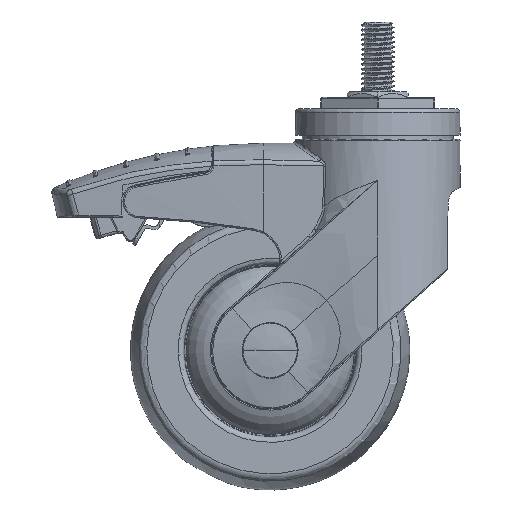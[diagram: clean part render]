
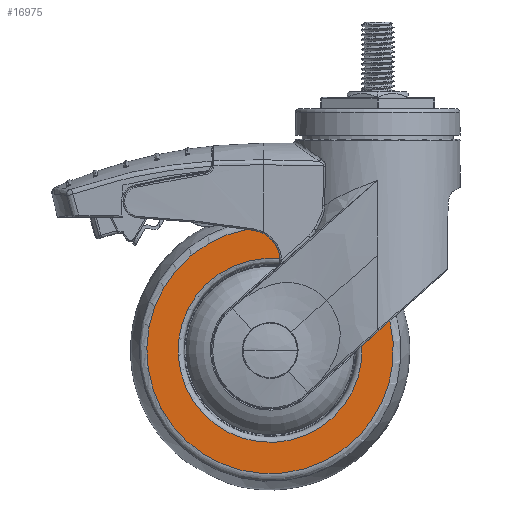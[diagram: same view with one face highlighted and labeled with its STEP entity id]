
A CAD part, left-side view. The second image highlights one B-rep face of the part: STEP entity #16975.
In plain terms, the highlighted planar face has unit normal (-1, 0, 0).
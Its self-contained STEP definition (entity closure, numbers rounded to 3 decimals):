
#430=CARTESIAN_POINT('',(-16.,-4.315,-29.689));
#450=CARTESIAN_POINT('',(-16.,5.654,-38.525));
#743=CARTESIAN_POINT('',(-16.,103.776,-352.359));
#744=DIRECTION('',(1.,0.,0.));
#745=DIRECTION('',(0.,-0.158,0.987));
#746=AXIS2_PLACEMENT_3D('',#743,#744,#745);
#3401=CARTESIAN_POINT('',(-16.,35.019,-7.537));
#3407=DIRECTION('',(0.,0.748,-0.663));
#3408=VECTOR('',#3407,13.321);
#3409=CARTESIAN_POINT('',(-16.,-4.315,-29.689));
#3410=LINE('',#3409,#3408);
#3411=CARTESIAN_POINT('',(-16.,46.,-8.175));
#3412=DIRECTION('',(-1.,0.,0.));
#3413=DIRECTION('',(0.,-0.998,0.058));
#3414=AXIS2_PLACEMENT_3D('',#3411,#3412,#3413);
#3416=CARTESIAN_POINT('',(-16.,38.539,-40.279));
#3417=DIRECTION('',(1.,0.,0.));
#3418=DIRECTION('',(0.,-0.971,0.24));
#3419=AXIS2_PLACEMENT_3D('',#3416,#3417,#3418);
#3426=CARTESIAN_POINT('',(-16.,38.539,-40.279));
#3427=DIRECTION('',(-1.,0.,0.));
#3428=DIRECTION('',(0.,-0.107,0.994));
#3429=AXIS2_PLACEMENT_3D('',#3426,#3427,#3428);
#11369=VERTEX_POINT('',#3401);
#11376=VERTEX_POINT('',#450);
#11379=CARTESIAN_POINT('',(-16.,46.743,3.094));
#11380=CARTESIAN_POINT('',(-16.,44.179,2.673));
#11381=VERTEX_POINT('',#11379);
#11382=VERTEX_POINT('',#11380);
#11384=VERTEX_POINT('',#430);
#16961=CARTESIAN_POINT('',(-16.,38.539,-40.279));
#16962=DIRECTION('',(-1.,0.,0.));
#16963=DIRECTION('',(0.,-0.748,0.663));
#16964=AXIS2_PLACEMENT_3D('',#16961,#16962,#16963);
#16965=PLANE('',#16964);
#16966=ORIENTED_EDGE('',*,*,#12488,.F.);
#16968=ORIENTED_EDGE('',*,*,#16967,.T.);
#16969=ORIENTED_EDGE('',*,*,#12634,.T.);
#16970=ORIENTED_EDGE('',*,*,#16940,.F.);
#16972=ORIENTED_EDGE('',*,*,#16971,.T.);
#16973=EDGE_LOOP('',(#16966,#16968,#16969,#16970,#16972));
#16974=FACE_OUTER_BOUND('',#16973,.F.);
#16975=ADVANCED_FACE('',(#16974),#16965,.T.);
#747=CIRCLE('',#746,360.);
#3415=CIRCLE('',#3414,11.);
#3420=CIRCLE('',#3419,44.142);
#3430=CIRCLE('',#3429,32.931);
#12488=EDGE_CURVE('',#11384,#11376,#3410,.T.);
#12634=EDGE_CURVE('',#11381,#11382,#747,.T.);
#16940=EDGE_CURVE('',#11369,#11382,#3415,.T.);
#16967=EDGE_CURVE('',#11384,#11381,#3420,.T.);
#16971=EDGE_CURVE('',#11369,#11376,#3430,.T.);
